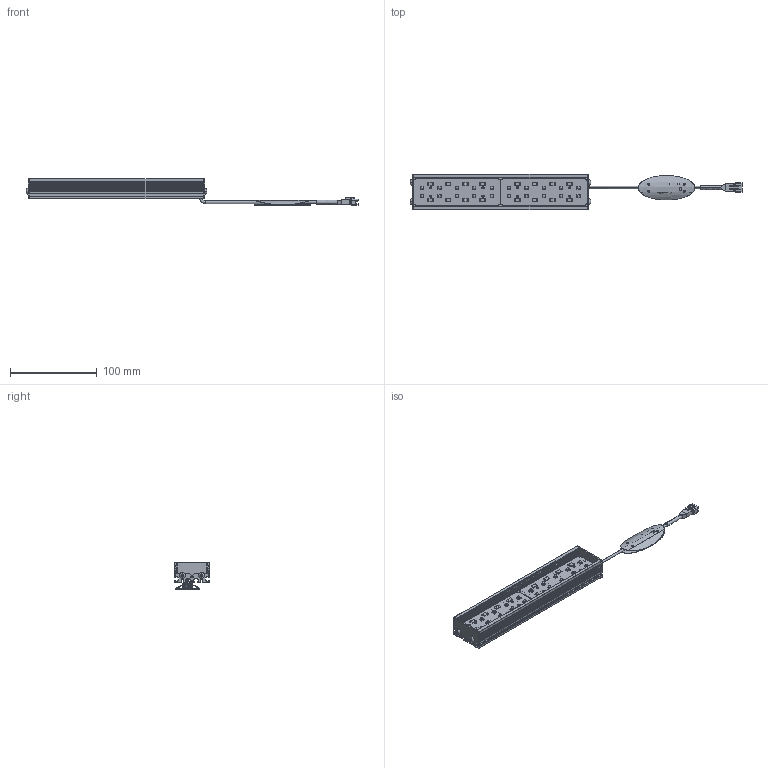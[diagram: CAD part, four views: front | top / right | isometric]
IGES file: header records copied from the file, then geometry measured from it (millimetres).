
Start section: 3D InterOp IGES (v. 2019 1.0.2), Spatial Corp. Copyright (c) 1999-2017.
Global section: file name: VBA-20030UV365_DRAWING_3D.iges; native system: Spatial Corp.; preprocessor: 3D InterOp ACIS/IGES; author: Noname; organization: Noname; date: 20240814.135119; units: millimetre
Bounding box: 382.08 x 41 x 30.5 mm (x, y, z)
Surface area: 89283.5 mm2 (no closed solid volume)
Topology: 0 solids, 0 shells, 2478 faces, 13292 edges, 13196 vertices
Faces by surface type: extrusion 1645, revolution 482, bspline 351
